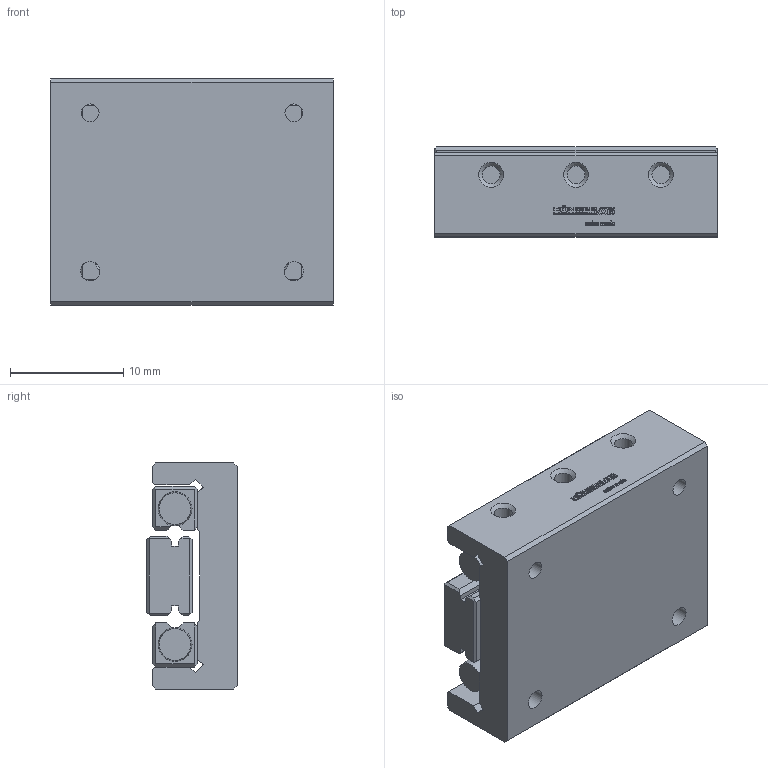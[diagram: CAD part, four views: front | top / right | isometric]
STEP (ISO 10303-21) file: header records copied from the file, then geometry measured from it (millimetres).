
FILE_DESCRIPTION(/* description */ ('STEP AP214'),/* implementation_level */ '2;1');
FILE_NAME(/* name */ 'ND 1-25.12(0)',/* time_stamp */ '2025-04-22T17:42:02+02:00',/* author */ ('License CC BY-ND 4.0'),/* organization */ ('CADENAS'),/* preprocessor_version */ 'ST-DEVELOPER v19.3',/* originating_system */ 'PARTsolutions',/* authorisation */ ' ');
FILE_SCHEMA (('AUTOMOTIVE_DESIGN {1 0 10303 214 3 1 1}'));
Length unit declared in the file: millimetre
Products named in the file (4): ND 1-25.12(0); ND 1-25.12+SQ+OF_(0)_1; ND 1-25.12+SQ+OF_(0)_2; ND 1-25.12+SQ+OF_(0)_3
Assembly tree (4 placements, depth 2):
  ND 1-25.12(0)
    ND 1-25.12+SQ+OF_(0)_1
    ND 1-25.12+SQ+OF_(0)_2
    ND 1-25.12+SQ+OF_(0)_3  x2
Bounding box: 25 x 8 x 20 mm (x, y, z)
Volume: 3175.5 mm3; surface area: 3464 mm2
Topology: 4 solids, 4 shells, 636 faces, 1763 edges, 1166 vertices
Faces by surface type: cylinder 320, plane 293, cone 19, torus 4
Full cylindrical faces by diameter (mm): 1.49 x4, 1.567 x5, 1.57 x6, 1.713 x2, 2.113 x3, 3 x6
Entity records: 19144 total; most frequent: DIRECTION 3453, CARTESIAN_POINT 3298, ORIENTED_EDGE 3226, EDGE_CURVE 1613, AXIS2_PLACEMENT_3D 1244, VERTEX_POINT 1089, LINE 965, VECTOR 965
